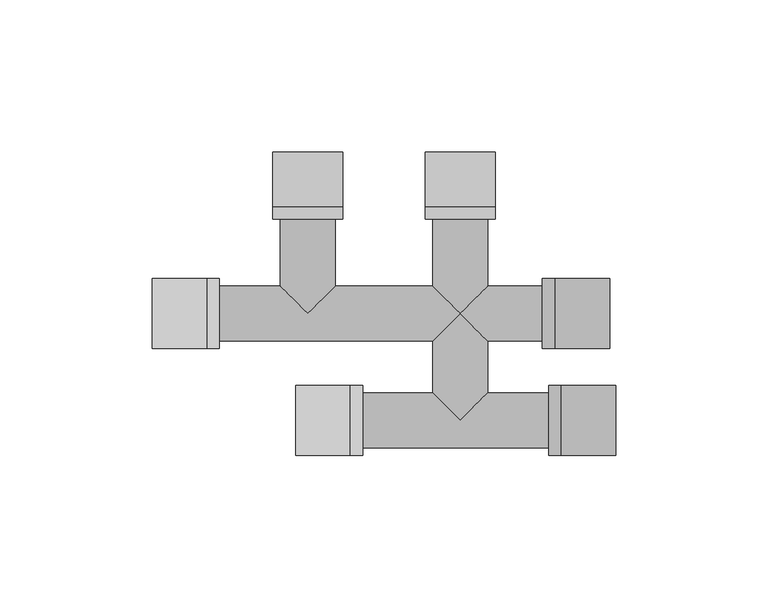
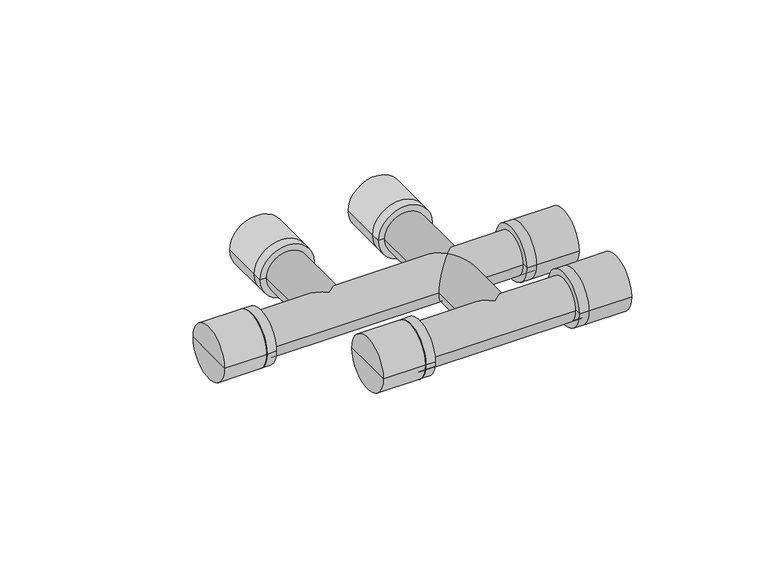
"""IFC4 building model written with IfcOpenShell, lengths in millimetres: pipe fitting geometry, KAN-therm Push 18x2 trójnik mijankowy : KAN-therm Push 18x2 trójnik mijankowy."""

from ifc_helpers import new_model, si_unit, frame, origin, place, context, project, spatial, circle_curve, ellipse_curve, source, transform, mapped, element, save
from ifc_brep_helpers import plane_surface, cylinder_surface, advanced_brep


def pipe_fitting_bddaeb39(model_context):
    return source(origin(), model_context, "Body", "AdvancedBrep", [
        advanced_brep(
        [(-83.0, 46.5, 0.0), (-83.0, 23.5, 0.0), (-83.0, 35.0, 0.0), (-79.0, 46.5, 0.0), (-79.0, 23.5, 0.0), (-79.0, 35.0, 0.0)],
        [
            (0, 1, circle_curve(frame((-83.0, 35.0, 0.0), z_axis=(-1.0, 0.0, 0.0), x_axis=(0.0, -1.0, 0.0)), 11.5)),
            (1, 2),
            (2, 0),
            (1, 0, circle_curve(frame((-83.0, 35.0, 0.0), z_axis=(-1.0, 0.0, 0.0), x_axis=(0.0, -1.0, 0.0)), 11.5)),
            (3, 4, circle_curve(frame((-79.0, 35.0, 0.0), z_axis=(-1.0, 0.0, 0.0), x_axis=(0.0, -1.0, 0.0)), 11.5)),
            (4, 1),
            (0, 3),
            (4, 3, circle_curve(frame((-79.0, 35.0, 0.0), z_axis=(-1.0, 0.0, 0.0), x_axis=(0.0, -1.0, 0.0)), 11.5)),
            (5, 4),
            (3, 5),
        ],
        [
            plane_surface(frame((-83.0, 35.0, 0.0), z_axis=(-1.0, 0.0, 0.0), x_axis=(0.0, -1.0, 0.0))),
            cylinder_surface(frame((-2078.0, 35.0, 0.0), z_axis=(1.0, 0.0, 0.0), x_axis=(0.0, -1.0, 0.0)), 11.5),
            plane_surface(frame((-79.0, 35.0, 0.0), z_axis=(1.0, 0.0, 0.0), x_axis=(0.0, -1.0, 0.0))),
        ],
        [
            (0, [[1, 2, 3]]),
            (0, [[4, -3, -2]]),
            (1, [[5, 6, -1, 7]]),
            (1, [[8, -7, -4, -6]]),
            (2, [[9, -5, 10]]),
            (2, [[-10, -8, -9]]),
        ],
    ),
        advanced_brep(
        [(-101.0, 46.5, 0.0), (-101.0, 23.5, 0.0), (-101.0, 35.0, 0.0), (-83.0, 46.5, 0.0), (-83.0, 23.5, 0.0), (-83.0, 35.0, 0.0)],
        [
            (0, 1, circle_curve(frame((-101.0, 35.0, 0.0), z_axis=(-1.0, 0.0, 0.0), x_axis=(0.0, -1.0, 0.0)), 11.5)),
            (1, 2),
            (2, 0),
            (1, 0, circle_curve(frame((-101.0, 35.0, 0.0), z_axis=(-1.0, 0.0, 0.0), x_axis=(0.0, -1.0, 0.0)), 11.5)),
            (3, 4, circle_curve(frame((-83.0, 35.0, 0.0), z_axis=(-1.0, 0.0, 0.0), x_axis=(0.0, -1.0, 0.0)), 11.5)),
            (4, 1),
            (0, 3),
            (4, 3, circle_curve(frame((-83.0, 35.0, 0.0), z_axis=(-1.0, 0.0, 0.0), x_axis=(0.0, -1.0, 0.0)), 11.5)),
            (5, 4),
            (3, 5),
        ],
        [
            plane_surface(frame((-101.0, 35.0, 0.0), z_axis=(-1.0, 0.0, 0.0), x_axis=(0.0, -1.0, 0.0))),
            cylinder_surface(frame((-2078.0, 35.0, 0.0), z_axis=(1.0, 0.0, 0.0), x_axis=(0.0, -1.0, 0.0)), 11.5),
            plane_surface(frame((-83.0, 35.0, 0.0), z_axis=(1.0, 0.0, 0.0), x_axis=(0.0, -1.0, 0.0))),
        ],
        [
            (0, [[1, 2, 3]]),
            (0, [[4, -3, -2]]),
            (1, [[5, 6, -1, 7]]),
            (1, [[8, -7, -4, -6]]),
            (2, [[9, -5, 10]]),
            (2, [[-10, -8, -9]]),
        ],
    ),
        advanced_brep(
        [(11.5, 70.0, 0.0), (-11.5, 70.0, 0.0), (0.0, 70.0, 0.0), (11.5, 66.0, 0.0), (-11.5, 66.0, 0.0), (0.0, 66.0, 0.0)],
        [
            (0, 1, circle_curve(frame((0.0, 70.0, 0.0), z_axis=(0.0, 1.0, 0.0), x_axis=(-1.0000000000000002, 0.0, 0.0)), 11.5)),
            (1, 2),
            (2, 0),
            (1, 0, circle_curve(frame((0.0, 70.0, 0.0), z_axis=(0.0, 1.0, 0.0), x_axis=(-1.0000000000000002, 0.0, 0.0)), 11.5)),
            (3, 4, circle_curve(frame((0.0, 66.0, 0.0), z_axis=(0.0, 1.0, 0.0), x_axis=(-1.0000000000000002, 0.0, 0.0)), 11.5)),
            (4, 1),
            (0, 3),
            (4, 3, circle_curve(frame((0.0, 66.0, 0.0), z_axis=(0.0, 1.0, 0.0), x_axis=(-1.0000000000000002, 0.0, 0.0)), 11.5)),
            (5, 4),
            (3, 5),
        ],
        [
            plane_surface(frame((0.0, 70.0, 0.0), z_axis=(0.0, 1.0, 0.0), x_axis=(-1.0, 0.0, 0.0))),
            cylinder_surface(frame((0.0, 2065.0, 0.0), z_axis=(0.0, -1.0000000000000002, 0.0), x_axis=(-1.0000000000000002, 0.0, 0.0)), 11.5),
            plane_surface(frame((0.0, 66.0, 0.0), z_axis=(0.0, -1.0, 0.0), x_axis=(-1.0, 0.0, 0.0))),
        ],
        [
            (0, [[1, 2, 3]]),
            (0, [[4, -3, -2]]),
            (1, [[5, 6, -1, 7]]),
            (1, [[8, -7, -4, -6]]),
            (2, [[9, -5, 10]]),
            (2, [[-10, -8, -9]]),
        ],
    ),
        advanced_brep(
        [(11.5, 88.0, 0.0), (-11.5, 88.0, 0.0), (0.0, 88.0, 0.0), (11.5, 70.0, 0.0), (-11.5, 70.0, 0.0), (0.0, 70.0, 0.0)],
        [
            (0, 1, circle_curve(frame((0.0, 88.0, 0.0), z_axis=(0.0, 1.0, 0.0), x_axis=(-1.0000000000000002, 0.0, 0.0)), 11.5)),
            (1, 2),
            (2, 0),
            (1, 0, circle_curve(frame((0.0, 88.0, 0.0), z_axis=(0.0, 1.0, 0.0), x_axis=(-1.0000000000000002, 0.0, 0.0)), 11.5)),
            (3, 4, circle_curve(frame((0.0, 70.0, 0.0), z_axis=(0.0, 1.0, 0.0), x_axis=(-1.0000000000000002, 0.0, 0.0)), 11.5)),
            (4, 1),
            (0, 3),
            (4, 3, circle_curve(frame((0.0, 70.0, 0.0), z_axis=(0.0, 1.0, 0.0), x_axis=(-1.0000000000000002, 0.0, 0.0)), 11.5)),
            (5, 4),
            (3, 5),
        ],
        [
            plane_surface(frame((0.0, 88.0, 0.0), z_axis=(0.0, 1.0, 0.0), x_axis=(-1.0, 0.0, 0.0))),
            cylinder_surface(frame((0.0, 2065.0, 0.0), z_axis=(0.0, -1.0000000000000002, 0.0), x_axis=(-1.0000000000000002, 0.0, 0.0)), 11.5),
            plane_surface(frame((0.0, 70.0, 0.0), z_axis=(0.0, -1.0, 0.0), x_axis=(-1.0, 0.0, 0.0))),
        ],
        [
            (0, [[1, 2, 3]]),
            (0, [[4, -3, -2]]),
            (1, [[5, 6, -1, 7]]),
            (1, [[8, -7, -4, -6]]),
            (2, [[9, -5, 10]]),
            (2, [[-10, -8, -9]]),
        ],
    ),
        advanced_brep(
        [(31.0, 23.5, 0.0), (31.0, 46.5, 0.0), (31.0, 35.0, 0.0), (27.0, 23.5, 0.0), (27.0, 46.5, 0.0), (27.0, 35.0, 0.0)],
        [
            (0, 1, circle_curve(frame((31.0, 35.0, 0.0), z_axis=(1.0, 0.0, 0.0), x_axis=(0.0, 1.0, 0.0)), 11.5)),
            (1, 2),
            (2, 0),
            (1, 0, circle_curve(frame((31.0, 35.0, 0.0), z_axis=(1.0, 0.0, 0.0), x_axis=(0.0, 1.0, 0.0)), 11.5)),
            (3, 4, circle_curve(frame((27.0, 35.0, 0.0), z_axis=(1.0, 0.0, 0.0), x_axis=(0.0, 1.0, 0.0)), 11.5)),
            (4, 1),
            (0, 3),
            (4, 3, circle_curve(frame((27.0, 35.0, 0.0), z_axis=(1.0, 0.0, 0.0), x_axis=(0.0, 1.0, 0.0)), 11.5)),
            (5, 4),
            (3, 5),
        ],
        [
            plane_surface(frame((31.0, 35.0, 0.0), z_axis=(1.0, 0.0, 0.0), x_axis=(0.0, 1.0, 0.0))),
            cylinder_surface(frame((2026.0, 35.0, 0.0), z_axis=(-1.0, 0.0, 0.0), x_axis=(0.0, 1.0, 0.0)), 11.5),
            plane_surface(frame((27.0, 35.0, 0.0), z_axis=(-1.0, 0.0, 0.0), x_axis=(0.0, 1.0, 0.0))),
        ],
        [
            (0, [[1, 2, 3]]),
            (0, [[4, -3, -2]]),
            (1, [[5, 6, -1, 7]]),
            (1, [[8, -7, -4, -6]]),
            (2, [[9, -5, 10]]),
            (2, [[-10, -8, -9]]),
        ],
    ),
        advanced_brep(
        [(49.0, 23.5, 0.0), (49.0, 46.5, 0.0), (49.0, 35.0, 0.0), (31.0, 23.5, 0.0), (31.0, 46.5, 0.0), (31.0, 35.0, 0.0)],
        [
            (0, 1, circle_curve(frame((49.0, 35.0, 0.0), z_axis=(1.0, 0.0, 0.0), x_axis=(0.0, 1.0, 0.0)), 11.5)),
            (1, 2),
            (2, 0),
            (1, 0, circle_curve(frame((49.0, 35.0, 0.0), z_axis=(1.0, 0.0, 0.0), x_axis=(0.0, 1.0, 0.0)), 11.5)),
            (3, 4, circle_curve(frame((31.0, 35.0, 0.0), z_axis=(1.0, 0.0, 0.0), x_axis=(0.0, 1.0, 0.0)), 11.5)),
            (4, 1),
            (0, 3),
            (4, 3, circle_curve(frame((31.0, 35.0, 0.0), z_axis=(1.0, 0.0, 0.0), x_axis=(0.0, 1.0, 0.0)), 11.5)),
            (5, 4),
            (3, 5),
        ],
        [
            plane_surface(frame((49.0, 35.0, 0.0), z_axis=(1.0, 0.0, 0.0), x_axis=(0.0, 1.0, 0.0))),
            cylinder_surface(frame((2026.0, 35.0, 0.0), z_axis=(-1.0, 0.0, 0.0), x_axis=(0.0, 1.0, 0.0)), 11.5),
            plane_surface(frame((31.0, 35.0, 0.0), z_axis=(-1.0, 0.0, 0.0), x_axis=(0.0, 1.0, 0.0))),
        ],
        [
            (0, [[1, 2, 3]]),
            (0, [[4, -3, -2]]),
            (1, [[5, 6, -1, 7]]),
            (1, [[8, -7, -4, -6]]),
            (2, [[9, -5, 10]]),
            (2, [[-10, -8, -9]]),
        ],
    ),
        advanced_brep(
        [(-38.5, 70.0, 0.0), (-61.5, 70.0, 0.0), (-50.0, 70.0, 0.0), (-38.5, 66.0, 0.0), (-61.5, 66.0, 0.0), (-50.0, 66.0, 0.0)],
        [
            (0, 1, circle_curve(frame((-50.0, 70.0, 0.0), z_axis=(0.0, 1.0, 0.0), x_axis=(-1.0000000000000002, 0.0, 0.0)), 11.5)),
            (1, 2),
            (2, 0),
            (1, 0, circle_curve(frame((-50.0, 70.0, 0.0), z_axis=(0.0, 1.0, 0.0), x_axis=(-1.0000000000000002, 0.0, 0.0)), 11.5)),
            (3, 4, circle_curve(frame((-50.0, 66.0, 0.0), z_axis=(0.0, 1.0, 0.0), x_axis=(-1.0000000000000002, 0.0, 0.0)), 11.5)),
            (4, 1),
            (0, 3),
            (4, 3, circle_curve(frame((-50.0, 66.0, 0.0), z_axis=(0.0, 1.0, 0.0), x_axis=(-1.0000000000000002, 0.0, 0.0)), 11.5)),
            (5, 4),
            (3, 5),
        ],
        [
            plane_surface(frame((-50.0, 70.0, 0.0), z_axis=(0.0, 1.0, 0.0), x_axis=(-1.0, 0.0, 0.0))),
            cylinder_surface(frame((-50.0, 2065.0, 0.0), z_axis=(0.0, -1.0000000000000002, 0.0), x_axis=(-1.0000000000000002, 0.0, 0.0)), 11.5),
            plane_surface(frame((-50.0, 66.0, 0.0), z_axis=(0.0, -1.0, 0.0), x_axis=(-1.0, 0.0, 0.0))),
        ],
        [
            (0, [[1, 2, 3]]),
            (0, [[4, -3, -2]]),
            (1, [[5, 6, -1, 7]]),
            (1, [[8, -7, -4, -6]]),
            (2, [[9, -5, 10]]),
            (2, [[-10, -8, -9]]),
        ],
    ),
        advanced_brep(
        [(-38.5, 88.0, 0.0), (-61.5, 88.0, 0.0), (-50.0, 88.0, 0.0), (-38.5, 70.0, 0.0), (-61.5, 70.0, 0.0), (-50.0, 70.0, 0.0)],
        [
            (0, 1, circle_curve(frame((-50.0, 88.0, 0.0), z_axis=(0.0, 1.0, 0.0), x_axis=(-1.0000000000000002, 0.0, 0.0)), 11.5)),
            (1, 2),
            (2, 0),
            (1, 0, circle_curve(frame((-50.0, 88.0, 0.0), z_axis=(0.0, 1.0, 0.0), x_axis=(-1.0000000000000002, 0.0, 0.0)), 11.5)),
            (3, 4, circle_curve(frame((-50.0, 70.0, 0.0), z_axis=(0.0, 1.0, 0.0), x_axis=(-1.0000000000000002, 0.0, 0.0)), 11.5)),
            (4, 1),
            (0, 3),
            (4, 3, circle_curve(frame((-50.0, 70.0, 0.0), z_axis=(0.0, 1.0, 0.0), x_axis=(-1.0000000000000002, 0.0, 0.0)), 11.5)),
            (5, 4),
            (3, 5),
        ],
        [
            plane_surface(frame((-50.0, 88.0, 0.0), z_axis=(0.0, 1.0, 0.0), x_axis=(-1.0, 0.0, 0.0))),
            cylinder_surface(frame((-50.0, 2065.0, 0.0), z_axis=(0.0, -1.0000000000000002, 0.0), x_axis=(-1.0000000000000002, 0.0, 0.0)), 11.5),
            plane_surface(frame((-50.0, 70.0, 0.0), z_axis=(0.0, -1.0, 0.0), x_axis=(-1.0, 0.0, 0.0))),
        ],
        [
            (0, [[1, 2, 3]]),
            (0, [[4, -3, -2]]),
            (1, [[5, 6, -1, 7]]),
            (1, [[8, -7, -4, -6]]),
            (2, [[9, -5, 10]]),
            (2, [[-10, -8, -9]]),
        ],
    ),
        advanced_brep(
        [(-36.0, 11.5, 0.0), (-36.0, -11.5, 0.0), (-36.0, 0.0, 0.0), (-32.0, 11.5, 0.0), (-32.0, -11.5, 0.0), (-32.0, 0.0, 0.0)],
        [
            (0, 1, circle_curve(frame((-36.0, 0.0, 0.0), z_axis=(-1.0, 0.0, 0.0), x_axis=(0.0, -1.0, 0.0)), 11.5)),
            (1, 2),
            (2, 0),
            (1, 0, circle_curve(frame((-36.0, 0.0, 0.0), z_axis=(-1.0, 0.0, 0.0), x_axis=(0.0, -1.0, 0.0)), 11.5)),
            (3, 4, circle_curve(frame((-32.0, 0.0, 0.0), z_axis=(-1.0, 0.0, 0.0), x_axis=(0.0, -1.0, 0.0)), 11.5)),
            (4, 1),
            (0, 3),
            (4, 3, circle_curve(frame((-32.0, 0.0, 0.0), z_axis=(-1.0, 0.0, 0.0), x_axis=(0.0, -1.0, 0.0)), 11.5)),
            (5, 4),
            (3, 5),
        ],
        [
            plane_surface(frame((-36.0, 0.0, 0.0), z_axis=(-1.0, 0.0, 0.0), x_axis=(0.0, -1.0, 0.0))),
            cylinder_surface(frame((-2031.0, 0.0, 0.0), z_axis=(1.0, 0.0, 0.0), x_axis=(0.0, -1.0, 0.0)), 11.5),
            plane_surface(frame((-32.0, 0.0, 0.0), z_axis=(1.0, 0.0, 0.0), x_axis=(0.0, -1.0, 0.0))),
        ],
        [
            (0, [[1, 2, 3]]),
            (0, [[4, -3, -2]]),
            (1, [[5, 6, -1, 7]]),
            (1, [[8, -7, -4, -6]]),
            (2, [[9, -5, 10]]),
            (2, [[-10, -8, -9]]),
        ],
    ),
        advanced_brep(
        [(-54.0, 11.5, 0.0), (-54.0, -11.5, 0.0), (-54.0, 0.0, 0.0), (-36.0, 11.5, 0.0), (-36.0, -11.5, 0.0), (-36.0, 0.0, 0.0)],
        [
            (0, 1, circle_curve(frame((-54.0, 0.0, 0.0), z_axis=(-1.0, 0.0, 0.0), x_axis=(0.0, -1.0, 0.0)), 11.5)),
            (1, 2),
            (2, 0),
            (1, 0, circle_curve(frame((-54.0, 0.0, 0.0), z_axis=(-1.0, 0.0, 0.0), x_axis=(0.0, -1.0, 0.0)), 11.5)),
            (3, 4, circle_curve(frame((-36.0, 0.0, 0.0), z_axis=(-1.0, 0.0, 0.0), x_axis=(0.0, -1.0, 0.0)), 11.5)),
            (4, 1),
            (0, 3),
            (4, 3, circle_curve(frame((-36.0, 0.0, 0.0), z_axis=(-1.0, 0.0, 0.0), x_axis=(0.0, -1.0, 0.0)), 11.5)),
            (5, 4),
            (3, 5),
        ],
        [
            plane_surface(frame((-54.0, 0.0, 0.0), z_axis=(-1.0, 0.0, 0.0), x_axis=(0.0, -1.0, 0.0))),
            cylinder_surface(frame((-2031.0, 0.0, 0.0), z_axis=(1.0, 0.0, 0.0), x_axis=(0.0, -1.0, 0.0)), 11.5),
            plane_surface(frame((-36.0, 0.0, 0.0), z_axis=(1.0, 0.0, 0.0), x_axis=(0.0, -1.0, 0.0))),
        ],
        [
            (0, [[1, 2, 3]]),
            (0, [[4, -3, -2]]),
            (1, [[5, 6, -1, 7]]),
            (1, [[8, -7, -4, -6]]),
            (2, [[9, -5, 10]]),
            (2, [[-10, -8, -9]]),
        ],
    ),
        advanced_brep(
        [(33.0, -11.5, 0.0), (33.0, 11.5, 0.0), (33.0, 0.0, 0.0), (29.0, -11.5, 0.0), (29.0, 11.5, 0.0), (29.0, 0.0, 0.0)],
        [
            (0, 1, circle_curve(frame((33.0, 0.0, 0.0), z_axis=(1.0, 0.0, 0.0), x_axis=(0.0, 1.0, 0.0)), 11.5)),
            (1, 2),
            (2, 0),
            (1, 0, circle_curve(frame((33.0, 0.0, 0.0), z_axis=(1.0, 0.0, 0.0), x_axis=(0.0, 1.0, 0.0)), 11.5)),
            (3, 4, circle_curve(frame((29.0, 0.0, 0.0), z_axis=(1.0, 0.0, 0.0), x_axis=(0.0, 1.0, 0.0)), 11.5)),
            (4, 1),
            (0, 3),
            (4, 3, circle_curve(frame((29.0, 0.0, 0.0), z_axis=(1.0, 0.0, 0.0), x_axis=(0.0, 1.0, 0.0)), 11.5)),
            (5, 4),
            (3, 5),
        ],
        [
            plane_surface(frame((33.0, 0.0, 0.0), z_axis=(1.0, 0.0, 0.0), x_axis=(0.0, 1.0, 0.0))),
            cylinder_surface(frame((2028.0, 0.0, 0.0), z_axis=(-1.0, 0.0, 0.0), x_axis=(0.0, 1.0, 0.0)), 11.5),
            plane_surface(frame((29.0, 0.0, 0.0), z_axis=(-1.0, 0.0, 0.0), x_axis=(0.0, 1.0, 0.0))),
        ],
        [
            (0, [[1, 2, 3]]),
            (0, [[4, -3, -2]]),
            (1, [[5, 6, -1, 7]]),
            (1, [[8, -7, -4, -6]]),
            (2, [[9, -5, 10]]),
            (2, [[-10, -8, -9]]),
        ],
    ),
        advanced_brep(
        [(51.0, -11.5, 0.0), (51.0, 11.5, 0.0), (51.0, 0.0, 0.0), (33.0, -11.5, 0.0), (33.0, 11.5, 0.0), (33.0, 0.0, 0.0)],
        [
            (0, 1, circle_curve(frame((51.0, 0.0, 0.0), z_axis=(1.0, 0.0, 0.0), x_axis=(0.0, 1.0, 0.0)), 11.5)),
            (1, 2),
            (2, 0),
            (1, 0, circle_curve(frame((51.0, 0.0, 0.0), z_axis=(1.0, 0.0, 0.0), x_axis=(0.0, 1.0, 0.0)), 11.5)),
            (3, 4, circle_curve(frame((33.0, 0.0, 0.0), z_axis=(1.0, 0.0, 0.0), x_axis=(0.0, 1.0, 0.0)), 11.5)),
            (4, 1),
            (0, 3),
            (4, 3, circle_curve(frame((33.0, 0.0, 0.0), z_axis=(1.0, 0.0, 0.0), x_axis=(0.0, 1.0, 0.0)), 11.5)),
            (5, 4),
            (3, 5),
        ],
        [
            plane_surface(frame((51.0, 0.0, 0.0), z_axis=(1.0, 0.0, 0.0), x_axis=(0.0, 1.0, 0.0))),
            cylinder_surface(frame((2028.0, 0.0, 0.0), z_axis=(-1.0, 0.0, 0.0), x_axis=(0.0, 1.0, 0.0)), 11.5),
            plane_surface(frame((33.0, 0.0, 0.0), z_axis=(-1.0, 0.0, 0.0), x_axis=(0.0, 1.0, 0.0))),
        ],
        [
            (0, [[1, 2, 3]]),
            (0, [[4, -3, -2]]),
            (1, [[5, 6, -1, 7]]),
            (1, [[8, -7, -4, -6]]),
            (2, [[9, -5, 10]]),
            (2, [[-10, -8, -9]]),
        ],
    ),
        advanced_brep(
        [(33.0, 26.0, 0.0), (33.0, 44.0, 0.0), (33.0, 35.0, 0.0), (9.0, 26.0, 0.0), (0.0, 35.0, -9.0), (9.0, 44.0, 0.0), (-83.0, 26.0, 0.0), (-83.0, 44.0, 0.0), (-59.0, 44.0, 0.0), (-50.0, 35.0, -9.0), (-41.0, 44.0, 0.0), (-9.0, 44.0, 0.0), (-9.0, 26.0, 0.0), (0.0, 35.0, 9.0), (-50.0, 35.0, 9.0), (-83.0, 35.0, 0.0), (-59.0, 70.0, 0.0), (-41.0, 70.0, 0.0), (-50.0, 70.0, 0.0), (33.0, -9.0, 0.0), (33.0, 9.0, 0.0), (33.0, 0.0, 0.0), (-36.0, -9.0, 0.0), (-36.0, 9.0, 0.0), (-9.0, 9.0, 0.0), (0.0, 0.0, -9.0), (9.0, 9.0, 0.0), (0.0, 0.0, 9.0), (-36.0, 0.0, 0.0), (-9.0, 70.0, 0.0), (9.0, 70.0, 0.0), (0.0, 70.0, 0.0)],
        [
            (0, 1, circle_curve(frame((33.0, 35.0, 0.0), z_axis=(1.0, 0.0, 0.0), x_axis=(0.0, 1.0, 0.0)), 9.0)),
            (1, 2),
            (2, 0),
            (1, 0, circle_curve(frame((33.0, 35.0, 0.0), z_axis=(1.0, 0.0, 0.0), x_axis=(0.0, 1.0, 0.0)), 9.0)),
            (0, 3),
            (3, 4, ellipse_curve(frame((0.0, 35.0, 0.0), z_axis=(0.7071067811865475, 0.7071067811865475, 0.0), x_axis=(-0.7071067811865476, 0.7071067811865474, 0.0)), 12.7279221, 9.0)),
            (4, 5, ellipse_curve(frame((0.0, 35.0, 0.0), z_axis=(0.7071067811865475, -0.7071067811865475, 0.0), x_axis=(-0.7071067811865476, -0.7071067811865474, 0.0)), 12.7279221, 9.0)),
            (5, 1),
            (6, 7, circle_curve(frame((-83.0, 35.0, 0.0), z_axis=(1.0, 0.0, 0.0), x_axis=(0.0, 1.0, 0.0)), 9.0)),
            (7, 8),
            (8, 9, ellipse_curve(frame((-50.0, 35.0, 0.0), z_axis=(-0.7071067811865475, -0.7071067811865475, 0.0), x_axis=(-0.7071067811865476, 0.7071067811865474, 0.0)), 12.7279221, 9.0)),
            (9, 10, ellipse_curve(frame((-50.0, 35.0, 0.0), z_axis=(0.7071067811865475, -0.7071067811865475, 0.0), x_axis=(-0.7071067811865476, -0.7071067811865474, 0.0)), 12.7279221, 9.0)),
            (10, 11),
            (11, 4, ellipse_curve(frame((0.0, 35.0, 0.0), z_axis=(-0.7071067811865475, -0.7071067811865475, 0.0), x_axis=(-0.7071067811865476, 0.7071067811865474, 0.0)), 12.7279221, 9.0)),
            (4, 12, ellipse_curve(frame((0.0, 35.0, 0.0), z_axis=(-0.7071067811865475, 0.7071067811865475, 0.0), x_axis=(-0.7071067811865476, -0.7071067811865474, 0.0)), 12.7279221, 9.0)),
            (12, 6),
            (5, 13, ellipse_curve(frame((0.0, 35.0, 0.0), z_axis=(0.7071067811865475, -0.7071067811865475, 0.0), x_axis=(-0.7071067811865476, -0.7071067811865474, 0.0)), 12.7279221, 9.0)),
            (13, 3, ellipse_curve(frame((0.0, 35.0, 0.0), z_axis=(0.7071067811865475, 0.7071067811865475, 0.0), x_axis=(-0.7071067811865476, 0.7071067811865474, 0.0)), 12.7279221, 9.0)),
            (7, 6, circle_curve(frame((-83.0, 35.0, 0.0), z_axis=(1.0, 0.0, 0.0), x_axis=(0.0, 1.0, 0.0)), 9.0)),
            (12, 13, ellipse_curve(frame((0.0, 35.0, 0.0), z_axis=(-0.7071067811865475, 0.7071067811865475, 0.0), x_axis=(-0.7071067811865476, -0.7071067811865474, 0.0)), 12.7279221, 9.0)),
            (13, 11, ellipse_curve(frame((0.0, 35.0, 0.0), z_axis=(-0.7071067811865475, -0.7071067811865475, 0.0), x_axis=(-0.7071067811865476, 0.7071067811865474, 0.0)), 12.7279221, 9.0)),
            (10, 14, ellipse_curve(frame((-50.0, 35.0, 0.0), z_axis=(0.7071067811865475, -0.7071067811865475, 0.0), x_axis=(-0.7071067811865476, -0.7071067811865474, 0.0)), 12.7279221, 9.0)),
            (14, 8, ellipse_curve(frame((-50.0, 35.0, 0.0), z_axis=(-0.7071067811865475, -0.7071067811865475, 0.0), x_axis=(-0.7071067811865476, 0.7071067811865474, 0.0)), 12.7279221, 9.0)),
            (6, 15),
            (15, 7),
            (16, 17, circle_curve(frame((-50.0, 70.0, 0.0), z_axis=(0.0, -1.0, 0.0), x_axis=(1.0, 0.0, 0.0)), 9.0)),
            (17, 10),
            (8, 16),
            (17, 16, circle_curve(frame((-50.0, 70.0, 0.0), z_axis=(0.0, -1.0, 0.0), x_axis=(1.0, 0.0, 0.0)), 9.0)),
            (16, 18),
            (18, 17),
            (19, 20, circle_curve(frame((33.0, 0.0, 0.0), z_axis=(1.0, 0.0, 0.0), x_axis=(0.0, 1.0, 0.0)), 9.0)),
            (20, 21),
            (21, 19),
            (20, 19, circle_curve(frame((33.0, 0.0, 0.0), z_axis=(1.0, 0.0, 0.0), x_axis=(0.0, 1.0, 0.0)), 9.0)),
            (19, 22),
            (22, 23, circle_curve(frame((-36.0, 0.0, 0.0), z_axis=(1.0, 0.0, 0.0), x_axis=(0.0, 1.0, 0.0)), 9.0)),
            (23, 24),
            (24, 25, ellipse_curve(frame((0.0, 0.0, 0.0), z_axis=(-0.7071067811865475, -0.7071067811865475, 0.0), x_axis=(-0.7071067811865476, 0.7071067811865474, 0.0)), 12.7279221, 9.0)),
            (25, 26, ellipse_curve(frame((0.0, 0.0, 0.0), z_axis=(0.7071067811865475, -0.7071067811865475, 0.0), x_axis=(-0.7071067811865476, -0.7071067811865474, 0.0)), 12.7279221, 9.0)),
            (26, 20),
            (26, 27, ellipse_curve(frame((0.0, 0.0, 0.0), z_axis=(0.7071067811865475, -0.7071067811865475, 0.0), x_axis=(-0.7071067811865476, -0.7071067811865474, 0.0)), 12.7279221, 9.0)),
            (27, 24, ellipse_curve(frame((0.0, 0.0, 0.0), z_axis=(-0.7071067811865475, -0.7071067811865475, 0.0), x_axis=(-0.7071067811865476, 0.7071067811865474, 0.0)), 12.7279221, 9.0)),
            (23, 22, circle_curve(frame((-36.0, 0.0, 0.0), z_axis=(1.0, 0.0, 0.0), x_axis=(0.0, 1.0, 0.0)), 9.0)),
            (22, 28),
            (28, 23),
            (29, 30, circle_curve(frame((0.0, 70.0, 0.0), z_axis=(0.0, -1.0, 0.0), x_axis=(1.0, 0.0, 0.0)), 9.0)),
            (30, 5),
            (11, 29),
            (3, 26),
            (24, 12),
            (30, 29, circle_curve(frame((0.0, 70.0, 0.0), z_axis=(0.0, -1.0, 0.0), x_axis=(1.0, 0.0, 0.0)), 9.0)),
            (29, 31),
            (31, 30),
        ],
        [
            plane_surface(frame((33.0, 35.0, 0.0), z_axis=(1.0, 0.0, 0.0), x_axis=(0.0, 1.0, 0.0))),
            cylinder_surface(frame((-190.9471411, 35.0, 0.0), z_axis=(-1.0, 0.0, 0.0), x_axis=(0.0, 1.0, 0.0)), 9.0),
            plane_surface(frame((-83.0, 35.0, 0.0), z_axis=(-1.0, 0.0, 0.0), x_axis=(0.0, 1.0, 0.0))),
            cylinder_surface(frame((-50.0, 140.7500603, 0.0), z_axis=(0.0, 1.0, 0.0), x_axis=(1.0, 0.0, 0.0)), 9.0),
            plane_surface(frame((-50.0, 70.0, 0.0), z_axis=(0.0, 1.0, 0.0), x_axis=(1.0, 0.0, 0.0))),
            plane_surface(frame((33.0, 0.0, 0.0), z_axis=(1.0, 0.0, 0.0), x_axis=(0.0, 1.0, 0.0))),
            cylinder_surface(frame((2017.5, 0.0, 0.0), z_axis=(-1.0, 0.0, 0.0), x_axis=(0.0, 1.0, 0.0)), 9.0),
            plane_surface(frame((-36.0, 0.0, 0.0), z_axis=(-1.0, 0.0, 0.0), x_axis=(0.0, 1.0, 0.0))),
            cylinder_surface(frame((0.0, 2017.0, 0.0), z_axis=(0.0, 1.0, 0.0), x_axis=(1.0, 0.0, 0.0)), 9.0),
            plane_surface(frame((0.0, 70.0, 0.0), z_axis=(0.0, 1.0, 0.0), x_axis=(1.0, 0.0, 0.0))),
        ],
        [
            (0, [[1, 2, 3]]),
            (0, [[-2, 4, -3]]),
            (1, [[-1, 5, 6, 7, 8]]),
            (1, [[9, 10, 11, 12, 13, 14, 15, 16]]),
            (1, [[-4, -8, 17, 18, -5]]),
            (1, [[19, -16, 20, 21, -13, 22, 23, -10]]),
            (2, [[-9, 24, 25]]),
            (2, [[-19, -25, -24]]),
            (3, [[26, 27, -12, -11, 28]]),
            (3, [[29, -28, -23, -22, -27]]),
            (4, [[-26, 30, 31]]),
            (4, [[-29, -31, -30]]),
            (5, [[32, 33, 34]]),
            (5, [[-33, 35, -34]]),
            (6, [[-32, 36, 37, 38, 39, 40, 41]]),
            (6, [[-35, -41, 42, 43, -38, 44, -36]]),
            (7, [[-37, 45, 46]]),
            (7, [[-44, -46, -45]]),
            (8, [[47, 48, -7, -14, 49]]),
            (8, [[50, -40, -39, 51, -15, -6]]),
            (8, [[-50, -18, -20, -51, -43, -42]]),
            (8, [[52, -49, -21, -17, -48]]),
            (9, [[-47, 53, 54]]),
            (9, [[-52, -54, -53]]),
        ],
    ),
    ])


if __name__ == "__main__":
    model = new_model("IFC4")
    model_context = context("Model", 3, world=origin())
    ifc_project = project(units=[si_unit("LENGTHUNIT", "METRE", prefix="MILLI")], contexts=[model_context])
    site = spatial("IfcSite", under=ifc_project)
    building = spatial("IfcBuilding", under=site)
    placement = place(None, origin())
    pipe_fitting_shape = pipe_fitting_bddaeb39(model_context)
    element("IfcPipeFitting", 1, ObjectType="KAN-therm Push 18x2 trójnik mijankowy : KAN-therm Push 18x2 trójnik mijankowy", at=placement, inside=building, context=model_context, shape_type="MappedRepresentation", body=[
        mapped(pipe_fitting_shape, transform((0.0, 0.0, 0.0), x_axis=(1.0, 0.0, 0.0), y_axis=(0.0, 1.0, 0.0), z_axis=(0.0, 0.0, 1.0))),
    ])
    save(model, "model.ifc")
